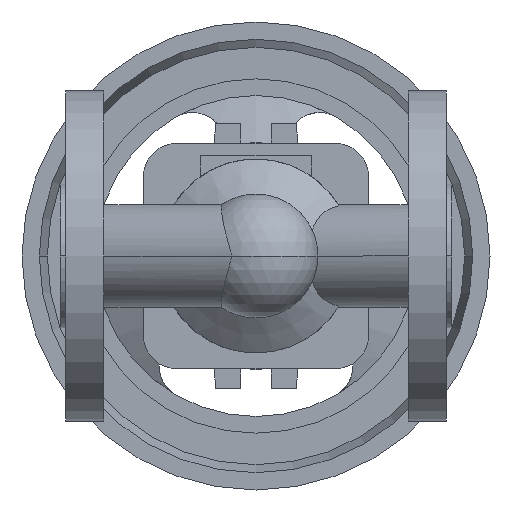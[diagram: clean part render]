
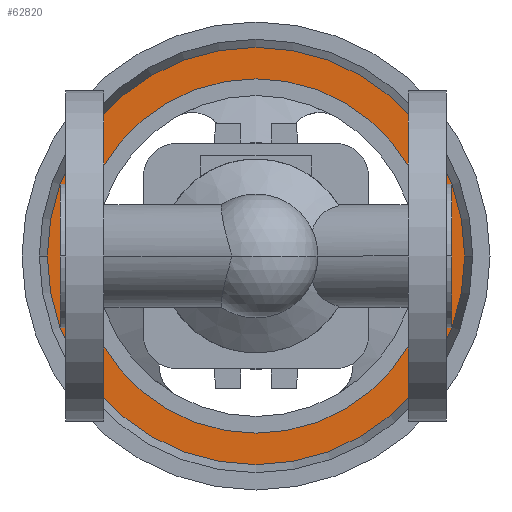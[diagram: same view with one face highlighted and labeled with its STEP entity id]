
A CAD part, front view. The second image highlights one B-rep face of the part: STEP entity #62820.
In plain terms, the highlighted planar face has unit normal (0, -1, 0).
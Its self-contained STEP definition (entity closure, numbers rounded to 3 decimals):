
#62270=CARTESIAN_POINT('',(120.912,235.2,0.)
);
#62280=VERTEX_POINT('',#62270);
#62360=CARTESIAN_POINT('',(-3.912,235.2,0.));
#62370=VERTEX_POINT('',#62360);
#62400=CARTESIAN_POINT('',(58.5,235.2,0.));
#62410=DIRECTION('',(0.,1.,0.));
#62420=DIRECTION('',(-1.,0.,0.));
#62430=AXIS2_PLACEMENT_3D('',#62400,#62410,#62420);
#62440=CIRCLE('',#62430,62.412);
#62450=EDGE_CURVE('',#62280,#62370,#62440,.T.);
#62570=CARTESIAN_POINT('',(0.794,235.2,0.)
);
#62580=DIRECTION('',(0.,-1.,0.));
#62590=DIRECTION('',(1.,0.,0.));
#62600=AXIS2_PLACEMENT_3D('',#62570,#62580,#62590);
#62610=PLANE('',#62600);
#62620=EDGE_CURVE('',#62370,#62280,#62440,.T.);
#62630=ORIENTED_EDGE('',*,*,#62620,.F.);
#62640=ORIENTED_EDGE('',*,*,#62450,.F.);
#62650=EDGE_LOOP('',(#62640,#62630));
#62660=FACE_OUTER_BOUND('',#62650,.T.);
#62670=CARTESIAN_POINT('',(58.5,235.2,0.));
#62680=DIRECTION('',(0.,1.,0.));
#62690=DIRECTION('',(-1.,0.,0.));
#62700=AXIS2_PLACEMENT_3D('',#62670,#62680,#62690);
#62710=CIRCLE('',#62700,53.);
#62720=CARTESIAN_POINT('',(111.5,235.2,0.));
#62730=VERTEX_POINT('',#62720);
#62740=CARTESIAN_POINT('',(5.5,235.2,0.));
#62750=VERTEX_POINT('',#62740);
#62760=EDGE_CURVE('',#62730,#62750,#62710,.T.);
#62770=ORIENTED_EDGE('',*,*,#62760,.T.);
#62780=EDGE_CURVE('',#62750,#62730,#62710,.T.);
#62790=ORIENTED_EDGE('',*,*,#62780,.T.);
#62800=EDGE_LOOP('',(#62790,#62770));
#62810=FACE_BOUND('',#62800,.T.);
#62820=ADVANCED_FACE('',(#62660,#62810),#62610,.T.);
